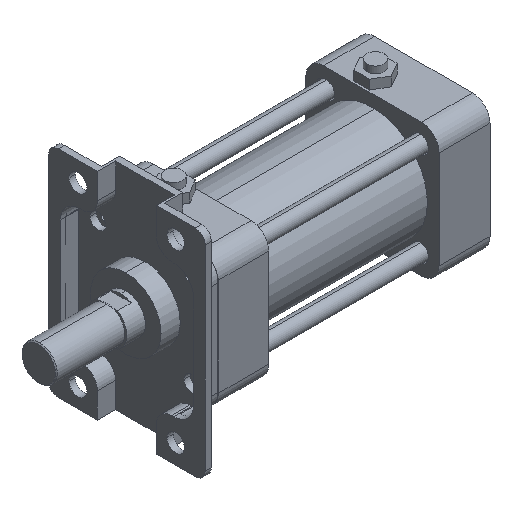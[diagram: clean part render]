
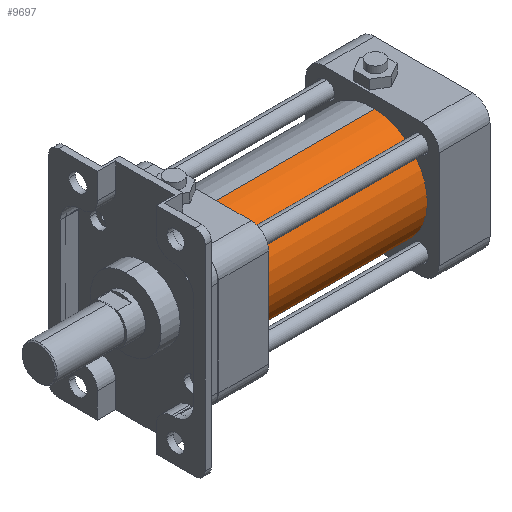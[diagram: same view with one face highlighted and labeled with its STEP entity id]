
A CAD part, isometric view. The second image highlights one B-rep face of the part: STEP entity #9697.
In plain terms, the highlighted cylindrical face has radius 28 mm (diameter 56 mm), a partial arc.
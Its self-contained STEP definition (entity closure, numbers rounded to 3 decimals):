
#531 = DIRECTION ( 'NONE',  ( -1., 0., 0. ) ) ;
#1216 = LINE ( 'NONE', #3613, #3551 ) ;
#1542 = AXIS2_PLACEMENT_3D ( 'NONE', #9630, #6455, #3228 ) ;
#1725 = CARTESIAN_POINT ( 'NONE',  ( -43.5, 0., 28. ) ) ;
#1807 = CARTESIAN_POINT ( 'NONE',  ( 43.5, 0., 28. ) ) ;
#2000 = VERTEX_POINT ( 'NONE', #1725 ) ;
#2250 = CARTESIAN_POINT ( 'NONE',  ( -43.5, 0., 0. ) ) ;
#2462 = VERTEX_POINT ( 'NONE', #4383 ) ;
#2529 = DIRECTION ( 'NONE',  ( -1., 0., 0. ) ) ;
#2612 = DIRECTION ( 'NONE',  ( 0., 0., 1. ) ) ;
#2762 = CARTESIAN_POINT ( 'NONE',  ( 43.5, 0., -28. ) ) ;
#2962 = EDGE_CURVE ( 'NONE', #2462, #2000, #4630, .T. ) ;
#3225 = ORIENTED_EDGE ( 'NONE', *, *, #2962, .F. ) ;
#3228 = DIRECTION ( 'NONE',  ( 0., 0., 1. ) ) ;
#3551 = VECTOR ( 'NONE', #531, 1000. ) ;
#3602 = EDGE_CURVE ( 'NONE', #9667, #10091, #8268, .T. ) ;
#3613 = CARTESIAN_POINT ( 'NONE',  ( -29.1, 0., -28. ) ) ;
#3620 = FACE_OUTER_BOUND ( 'NONE', #8420, .T. ) ;
#3787 = CARTESIAN_POINT ( 'NONE',  ( -29.1, 0., 0. ) ) ;
#4373 = AXIS2_PLACEMENT_3D ( 'NONE', #2250, #9511, #4979 ) ;
#4383 = CARTESIAN_POINT ( 'NONE',  ( -43.5, 0., -28. ) ) ;
#4630 = CIRCLE ( 'NONE', #4373, 28. ) ;
#4905 = CARTESIAN_POINT ( 'NONE',  ( -29.1, 0., 28. ) ) ;
#4979 = DIRECTION ( 'NONE',  ( 0., 0., 1. ) ) ;
#5101 = EDGE_CURVE ( 'NONE', #10091, #2000, #9431, .T. ) ;
#5664 = CYLINDRICAL_SURFACE ( 'NONE', #8482, 28. ) ;
#5898 = EDGE_CURVE ( 'NONE', #9667, #2462, #1216, .T. ) ;
#6156 = DIRECTION ( 'NONE',  ( -1., 0., 0. ) ) ;
#6455 = DIRECTION ( 'NONE',  ( -1., 0., 0. ) ) ;
#6862 = ORIENTED_EDGE ( 'NONE', *, *, #5898, .F. ) ;
#8268 = CIRCLE ( 'NONE', #1542, 28. ) ;
#8420 = EDGE_LOOP ( 'NONE', ( #6862, #8734, #10060, #3225 ) ) ;
#8482 = AXIS2_PLACEMENT_3D ( 'NONE', #3787, #6156, #2612 ) ;
#8734 = ORIENTED_EDGE ( 'NONE', *, *, #3602, .T. ) ;
#9431 = LINE ( 'NONE', #4905, #9627 ) ;
#9511 = DIRECTION ( 'NONE',  ( -1., 0., 0. ) ) ;
#9627 = VECTOR ( 'NONE', #2529, 1000. ) ;
#9630 = CARTESIAN_POINT ( 'NONE',  ( 43.5, 0., 0. ) ) ;
#9667 = VERTEX_POINT ( 'NONE', #2762 ) ;
#9697 = ADVANCED_FACE ( 'NONE', ( #3620 ), #5664, .T. ) ;
#10060 = ORIENTED_EDGE ( 'NONE', *, *, #5101, .T. ) ;
#10091 = VERTEX_POINT ( 'NONE', #1807 ) ;
